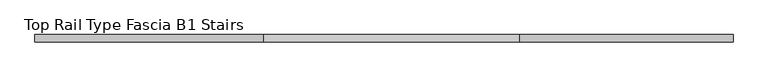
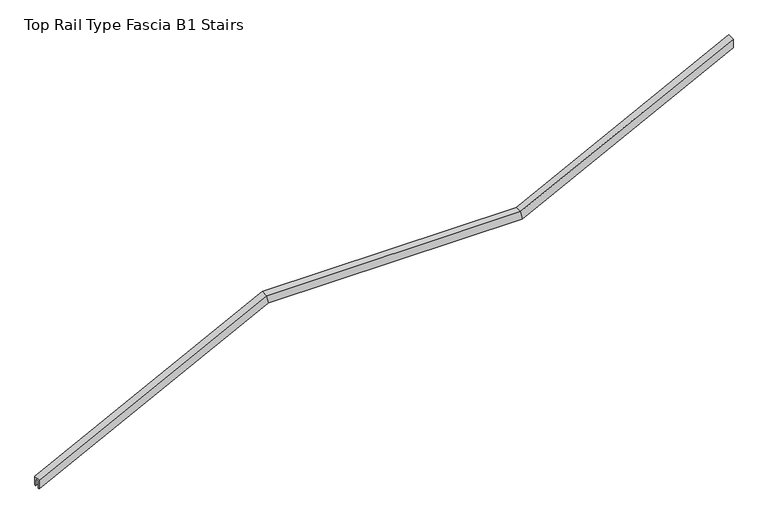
"""IFC4 building model written with IfcOpenShell, lengths in millimetres: proxy geometry, Top Rail Type Fascia B1 Stairs."""

from ifc_helpers import new_model, si_unit, origin, place, context, project, spatial, faceted_brep, source, transform, mapped, element, save


def top_rail_type_fascia_b1_stairs_c33a6b01(model_context):
    return source(origin(), model_context, "Body", "Brep", [
        faceted_brep([(4578.4721922, 23849.3386645, 2882.4016967), (4578.4721922, 23871.5636645, 2882.4016967), (4578.4721922, 23871.5636645, 2853.9005081), (4578.4721922, 23866.8011645, 2853.9005081), (4578.4721922, 23866.8011645, 2877.0577238), (4578.4721922, 23854.1011645, 2877.0577238), (4578.4721922, 23854.1011645, 2853.9005081), (4578.4721922, 23849.3386645, 2853.9005081), (5276.9721922, 23849.3386645, 3237.9478261), (5276.9721922, 23871.5636645, 3237.9478261), (5283.0647357, 23871.5636645, 3212.5478261), (5283.0647357, 23866.8011645, 3212.5478261), (5278.1145441, 23866.8011645, 3233.1853261), (5278.1145441, 23854.1011645, 3233.1853261), (5283.0647357, 23854.1011645, 3212.5478261), (5283.0647357, 23849.3386645, 3212.5478261), (6058.0221922, 23849.3386645, 3237.9478261), (6058.0221922, 23871.5636645, 3237.9478261), (6064.1147357, 23871.5636645, 3212.5478261), (6064.1147357, 23866.8011645, 3212.5478261), (6059.1645441, 23866.8011645, 3233.1853261), (6059.1645441, 23854.1011645, 3233.1853261), (6064.1147357, 23854.1011645, 3212.5478261), (6064.1147357, 23849.3386645, 3212.5478261), (6712.0721922, 23849.3386645, 3570.8682927), (6712.0721922, 23849.3386645, 3542.3671041), (6712.0721922, 23854.1011645, 3542.3671041), (6712.0721922, 23854.1011645, 3565.5243198), (6712.0721922, 23866.8011645, 3565.5243198), (6712.0721922, 23866.8011645, 3542.3671041), (6712.0721922, 23871.5636645, 3542.3671041), (6712.0721922, 23871.5636645, 3570.8682927)], [[[0, 1, 2, 3, 4, 5, 6, 7]], [[1, 0, 8, 9]], [[2, 1, 9, 10]], [[3, 2, 10, 11]], [[4, 3, 11, 12]], [[5, 4, 12, 13]], [[6, 5, 13, 14]], [[7, 6, 14, 15]], [[0, 7, 15, 8]], [[9, 8, 16, 17]], [[10, 9, 17, 18]], [[11, 10, 18, 19]], [[12, 11, 19, 20]], [[13, 12, 20, 21]], [[14, 13, 21, 22]], [[15, 14, 22, 23]], [[8, 15, 23, 16]], [[24, 25, 26, 27, 28, 29, 30, 31]], [[17, 16, 24, 31]], [[18, 17, 31, 30]], [[19, 18, 30, 29]], [[20, 19, 29, 28]], [[21, 20, 28, 27]], [[22, 21, 27, 26]], [[23, 22, 26, 25]], [[16, 23, 25, 24]]]),
    ])


if __name__ == "__main__":
    model = new_model("IFC4")
    model_context = context("Model", 3, world=origin())
    ifc_project = project(units=[si_unit("LENGTHUNIT", "METRE", prefix="MILLI")], contexts=[model_context])
    site = spatial("IfcSite", under=ifc_project)
    building = spatial("IfcBuilding", under=site)
    placement = place(None, origin())
    top_rail_type_fascia_b1_stairs_shape = top_rail_type_fascia_b1_stairs_c33a6b01(model_context)
    element("IfcBuildingElementProxy", 1, Name="Top Rail Type Fascia B1 Stairs", ObjectType="Top Rail Type Fascia B1 Stairs", at=placement, inside=building, context=model_context, shape_type="MappedRepresentation", body=[
        mapped(top_rail_type_fascia_b1_stairs_shape, transform((0.0, 0.0, 0.0), x_axis=(1.0, 0.0, 0.0), y_axis=(0.0, 1.0, 0.0), z_axis=(0.0, 0.0, 1.0))),
    ])
    save(model, "model.ifc")
